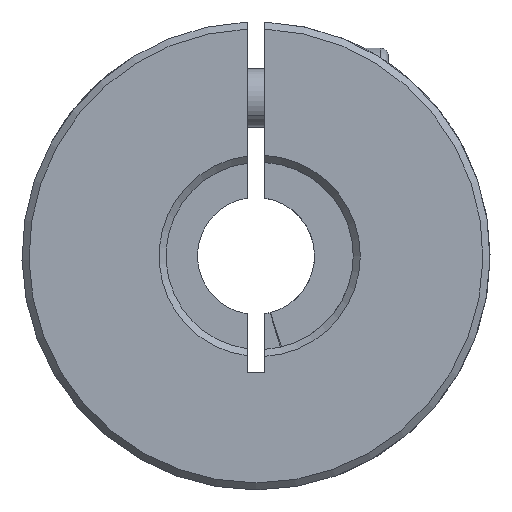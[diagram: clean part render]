
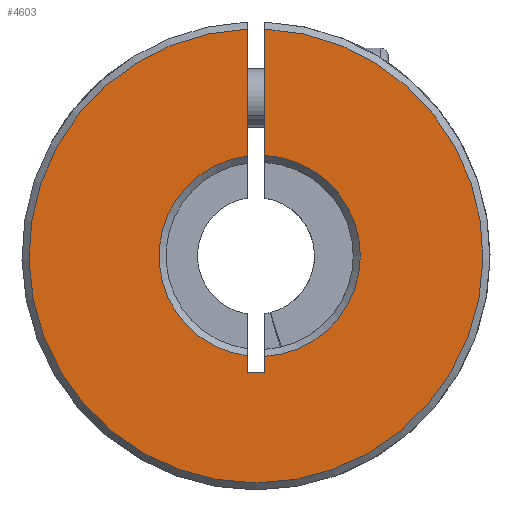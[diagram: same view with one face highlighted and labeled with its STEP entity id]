
A CAD part, front view. The second image highlights one B-rep face of the part: STEP entity #4603.
In plain terms, the highlighted planar face has unit normal (0, -1, 0).
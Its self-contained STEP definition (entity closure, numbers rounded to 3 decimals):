
#12 = ORIENTED_EDGE ( 'NONE', *, *, #4215, .T. ) ;
#85 = CARTESIAN_POINT ( 'NONE',  ( -0.75, -30., -8.534 ) ) ;
#113 = DIRECTION ( 'NONE',  ( 0., 1., 0. ) ) ;
#405 = DIRECTION ( 'NONE',  ( 0., 0., 1. ) ) ;
#437 = FACE_OUTER_BOUND ( 'NONE', #1660, .T. ) ;
#570 = CARTESIAN_POINT ( 'NONE',  ( 0.314, -30., 0. ) ) ;
#574 = ORIENTED_EDGE ( 'NONE', *, *, #3855, .T. ) ;
#691 = DIRECTION ( 'NONE',  ( 0., 1., 0. ) ) ;
#712 = LINE ( 'NONE', #1636, #4671 ) ;
#819 = CARTESIAN_POINT ( 'NONE',  ( -0.75, -30., -10. ) ) ;
#868 = CARTESIAN_POINT ( 'NONE',  ( 0., -30., 0. ) ) ;
#941 = ORIENTED_EDGE ( 'NONE', *, *, #2306, .T. ) ;
#1209 = DIRECTION ( 'NONE',  ( 0., 0., -1. ) ) ;
#1304 = CARTESIAN_POINT ( 'NONE',  ( -0.75, -30., 19.385 ) ) ;
#1412 = CIRCLE ( 'NONE', #4541, 8.6 ) ;
#1636 = CARTESIAN_POINT ( 'NONE',  ( -0.75, -30., -10. ) ) ;
#1660 = EDGE_LOOP ( 'NONE', ( #5329, #3775, #5940, #574, #3778, #5250, #12, #941 ) ) ;
#1712 = LINE ( 'NONE', #819, #4818 ) ;
#1757 = DIRECTION ( 'NONE',  ( 0., 1., 0. ) ) ;
#1776 = DIRECTION ( 'NONE',  ( 0., 0., 1. ) ) ;
#1783 = CARTESIAN_POINT ( 'NONE',  ( 0.75, -30., -10. ) ) ;
#1888 = VECTOR ( 'NONE', #4156, 1000. ) ;
#2247 = CARTESIAN_POINT ( 'NONE',  ( -0.75, -30., -10. ) ) ;
#2252 = VERTEX_POINT ( 'NONE', #2513 ) ;
#2306 = EDGE_CURVE ( 'NONE', #3258, #4190, #2761, .T. ) ;
#2434 = DIRECTION ( 'NONE',  ( 0., 0., 1. ) ) ;
#2513 = CARTESIAN_POINT ( 'NONE',  ( -0.75, -30., -10. ) ) ;
#2577 = LINE ( 'NONE', #5449, #5929 ) ;
#2584 = CARTESIAN_POINT ( 'NONE',  ( 0.75, -30., -8.589 ) ) ;
#2606 = VERTEX_POINT ( 'NONE', #5308 ) ;
#2695 = DIRECTION ( 'NONE',  ( 0., -1., 0. ) ) ;
#2761 = CIRCLE ( 'NONE', #3538, 19.4 ) ;
#2762 = PLANE ( 'NONE',  #4283 ) ;
#2803 = AXIS2_PLACEMENT_3D ( 'NONE', #5395, #691, #4069 ) ;
#3012 = VERTEX_POINT ( 'NONE', #85 ) ;
#3097 = EDGE_CURVE ( 'NONE', #3846, #4101, #1412, .T. ) ;
#3180 = CARTESIAN_POINT ( 'NONE',  ( 0.75, -30., -10. ) ) ;
#3258 = VERTEX_POINT ( 'NONE', #1304 ) ;
#3538 = AXIS2_PLACEMENT_3D ( 'NONE', #5930, #2695, #1776 ) ;
#3700 = VECTOR ( 'NONE', #4931, 1000. ) ;
#3775 = ORIENTED_EDGE ( 'NONE', *, *, #3097, .T. ) ;
#3778 = ORIENTED_EDGE ( 'NONE', *, *, #4398, .T. ) ;
#3846 = VERTEX_POINT ( 'NONE', #4503 ) ;
#3855 = EDGE_CURVE ( 'NONE', #3899, #2252, #1712, .T. ) ;
#3899 = VERTEX_POINT ( 'NONE', #3180 ) ;
#4069 = DIRECTION ( 'NONE',  ( 0., 0., 1. ) ) ;
#4097 = LINE ( 'NONE', #2247, #1888 ) ;
#4101 = VERTEX_POINT ( 'NONE', #2584 ) ;
#4156 = DIRECTION ( 'NONE',  ( 0., 0., 1. ) ) ;
#4190 = VERTEX_POINT ( 'NONE', #4612 ) ;
#4215 = EDGE_CURVE ( 'NONE', #2606, #3258, #4097, .T. ) ;
#4283 = AXIS2_PLACEMENT_3D ( 'NONE', #868, #1757, #405 ) ;
#4398 = EDGE_CURVE ( 'NONE', #2252, #3012, #712, .T. ) ;
#4503 = CARTESIAN_POINT ( 'NONE',  ( 0.75, -30., 8.589 ) ) ;
#4505 = EDGE_CURVE ( 'NONE', #4101, #3899, #2577, .T. ) ;
#4516 = LINE ( 'NONE', #1783, #3700 ) ;
#4541 = AXIS2_PLACEMENT_3D ( 'NONE', #570, #113, #2434 ) ;
#4603 = ADVANCED_FACE ( 'NONE', ( #437 ), #2762, .F. ) ;
#4612 = CARTESIAN_POINT ( 'NONE',  ( 0.75, -30., 19.385 ) ) ;
#4668 = CIRCLE ( 'NONE', #2803, 8.6 ) ;
#4671 = VECTOR ( 'NONE', #5357, 1000. ) ;
#4818 = VECTOR ( 'NONE', #5865, 1000. ) ;
#4931 = DIRECTION ( 'NONE',  ( 0., 0., -1. ) ) ;
#5250 = ORIENTED_EDGE ( 'NONE', *, *, #5314, .T. ) ;
#5308 = CARTESIAN_POINT ( 'NONE',  ( -0.75, -30., 8.534 ) ) ;
#5314 = EDGE_CURVE ( 'NONE', #3012, #2606, #4668, .T. ) ;
#5329 = ORIENTED_EDGE ( 'NONE', *, *, #5572, .T. ) ;
#5357 = DIRECTION ( 'NONE',  ( 0., 0., 1. ) ) ;
#5395 = CARTESIAN_POINT ( 'NONE',  ( 0.314, -30., 0. ) ) ;
#5449 = CARTESIAN_POINT ( 'NONE',  ( 0.75, -30., -10. ) ) ;
#5572 = EDGE_CURVE ( 'NONE', #4190, #3846, #4516, .T. ) ;
#5865 = DIRECTION ( 'NONE',  ( -1., 0., 0. ) ) ;
#5929 = VECTOR ( 'NONE', #1209, 1000. ) ;
#5930 = CARTESIAN_POINT ( 'NONE',  ( 0., -30., 0. ) ) ;
#5940 = ORIENTED_EDGE ( 'NONE', *, *, #4505, .T. ) ;
